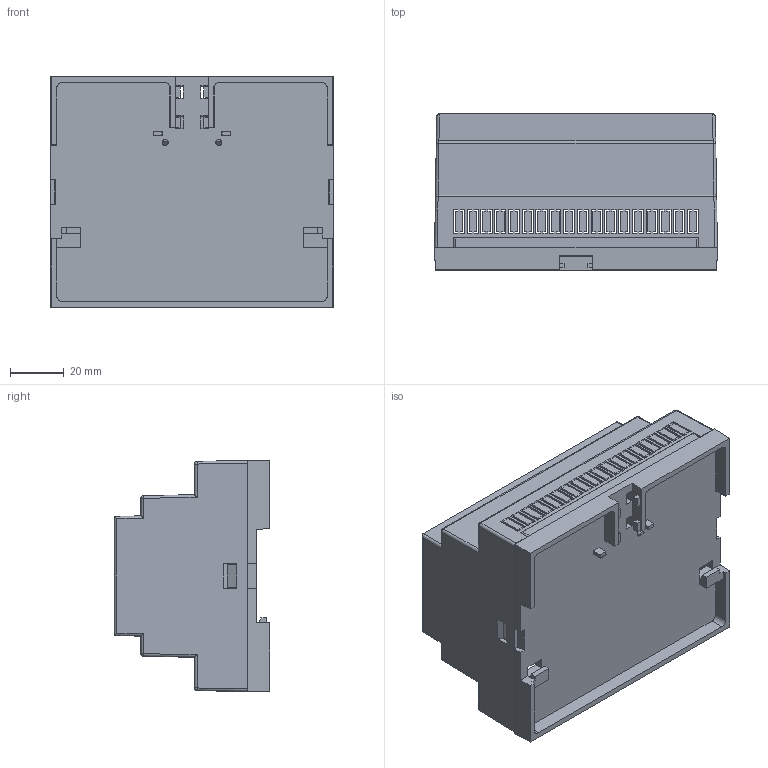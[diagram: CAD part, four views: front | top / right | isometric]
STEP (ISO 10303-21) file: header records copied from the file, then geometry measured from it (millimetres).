
FILE_DESCRIPTION (( 'STEP AP203' ), '1' );
FILE_NAME ('PT106-S.STEP', '2020-09-09T05:12:45', ( '' ), ( '' ), 'SwSTEP 2.0', 'SolidWorks 2020', '' );
FILE_SCHEMA (( 'CONFIG_CONTROL_DESIGN' ));
Length unit declared in the file: millimetre
Products named in the file (4): PT106-S
Assembly tree (3 placements, depth 2):
  PT106-S
    PT106-S
    PT106-S
    PT106-S
Bounding box: 105.25 x 58 x 86.3 mm (x, y, z)
Volume: 73376.3 mm3; surface area: 76585.5 mm2
Topology: 3 solids, 3 shells, 901 faces, 2644 edges, 1746 vertices
Faces by surface type: plane 829, cylinder 44, cone 20, sphere 8
Entity records: 30024 total; most frequent: CARTESIAN_POINT 5385, ORIENTED_EDGE 5272, DIRECTION 4518, EDGE_CURVE 2636, VECTOR 2504, LINE 2504, VERTEX_POINT 1746, EDGE_LOOP 1072
